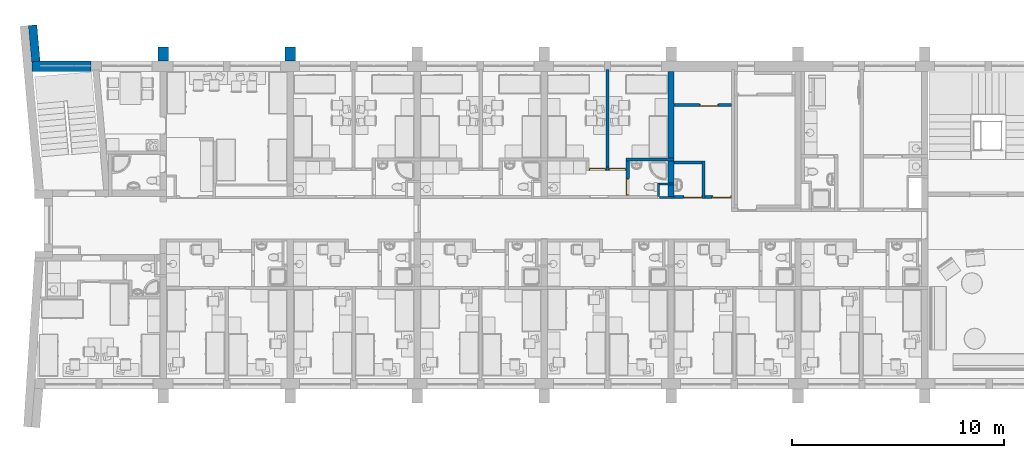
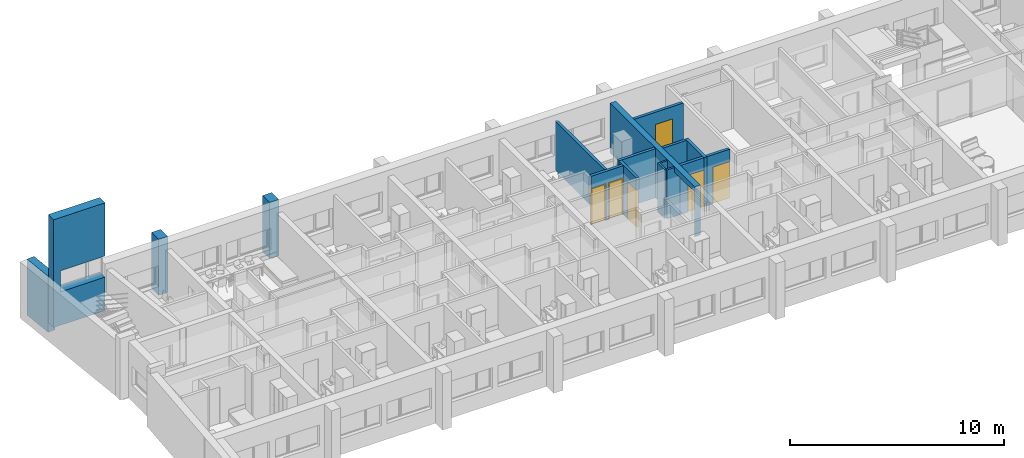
# One storey, part 8 of 165: 16 walls, 6 doors, 8 openings.
"""IFC2X3 building model written with IfcOpenShell, lengths in millimetres."""

from ifc_helpers import new_model, entity, si_unit, converted_unit, money_unit, direction, frame, origin_with_axes, place, context, subcontext, project, spatial, polyline, outline, extrude, faceted_brep, source, transform, mapped, material, material_list, layer, layer_set, layer_usage, type_object, element, fill, save


model = new_model("IFC2X3")

# Units and contexts
model_context = context("Model", 3, precision=1e-05, world=origin_with_axes(), true_north=direction((0.0, 1.0)))
body_context = subcontext(model_context, "Body", "Model", "MODEL_VIEW")
ifc_project = project(units=[si_unit("LENGTHUNIT", "METRE", prefix="MILLI"), si_unit("AREAUNIT", "SQUARE_METRE"), si_unit("VOLUMEUNIT", "CUBIC_METRE"), converted_unit("PLANEANGLEUNIT", "DEGREE", entity("IfcPlaneAngleMeasure", 0.0174532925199), si_unit("PLANEANGLEUNIT", "RADIAN"), dimensions=[0, 0, 0, 0, 0, 0, 0]), si_unit("SOLIDANGLEUNIT", "STERADIAN"), money_unit("USD"), converted_unit("TIMEUNIT", "Year", entity("IfcTimeMeasure", 31556926.0), si_unit("TIMEUNIT", "SECOND"), dimensions=[0, 0, 0, 0, 0, 0, 0]), si_unit("MASSUNIT", "GRAM"), si_unit("THERMODYNAMICTEMPERATUREUNIT", "DEGREE_CELSIUS"), si_unit("LUMINOUSINTENSITYUNIT", "LUMEN")], contexts=[model_context])

# Site, building, storey
site_placement = place(None, origin_with_axes())
site = spatial("IfcSite", under=ifc_project, at=site_placement, Name="Site", CompositionType="ELEMENT")
building_placement = place(site_placement, origin_with_axes())
building = spatial("IfcBuilding", under=site, at=building_placement, Name="Building", CompositionType="ELEMENT")
storey_placement = place(building_placement, frame((0.0, 0.0, 6300.0), z_axis=(0.0, 0.0, 1.0), x_axis=(1.0, 0.0, 0.0)))
storey = spatial("IfcBuildingStorey", under=building, at=storey_placement, Name="4KORRUS", CompositionType="ELEMENT", Elevation=6300.0)

# Walls
ifc_material_1 = material(Name="Olemasolevad seinad tellis, uus viimistlus")
ifc_layer_1 = layer(ifc_material_1, 400.0, ventilated="UNKNOWN")
ifc_layer_set_1 = layer_set([ifc_layer_1], Name="Olemasolevad seinad tellis, uus viimistlus 400")
ifc_layer_usage_1 = layer_usage(ifc_layer_set_1, "AXIS2", "POSITIVE", 0.0)
wall_type_1 = type_object("IfcWallType", Name="Olemasolevad seinad tellis, uus viimistlus 400", PredefinedType="NOTDEFINED")
wall_1_placement = place(storey_placement, frame((-53969.3388124, -4639.6041088, 0.0), z_axis=(0.0, 0.0, 1.0), x_axis=(-0.0895981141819, 0.995978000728, 0.0)))
element("IfcWallStandardCase", 1, at=wall_1_placement, inside=storey, type_object=wall_type_1, material=ifc_layer_usage_1, Name="VS1", ObjectType="VS1", context=body_context, shape_type="SweptSolid", body=[
    extrude(outline(polyline([(0.0, 0.0), (1721.86022219, 0.0), (1721.86022219, 400.0), (0.0, 400.0), (0.0, 0.0)])), origin_with_axes(), (0.0, 0.0, 1.0), 3200.0),
])
ifc_layer_2 = layer(ifc_material_1, 500.0, ventilated="UNKNOWN")
ifc_layer_set_2 = layer_set([ifc_layer_2], Name="Olemasolevad seinad tellis, uus viimistlus 500")
ifc_layer_usage_2 = layer_usage(ifc_layer_set_2, "AXIS2", "POSITIVE", -100.0)
wall_type_2 = type_object("IfcWallType", Name="Olemasolevad seinad tellis, uus viimistlus 500", PredefinedType="NOTDEFINED")
wall_2_placement = place(storey_placement, frame((-47990.2967033, -4639.6041088, 0.0), z_axis=(0.0, 0.0, 1.0), x_axis=(0.0, 1.0, 0.0)))
element("IfcWallStandardCase", 2, at=wall_2_placement, inside=storey, type_object=wall_type_2, material=ifc_layer_usage_2, Name="VS1", ObjectType="VS1", context=body_context, shape_type="SweptSolid", body=[
    extrude(outline(polyline([(0.0, -100.0), (657.402041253, -100.0), (657.402041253, 400.0), (0.0, 400.0), (0.0, -100.0)])), origin_with_axes(), (0.0, 0.0, 1.0), 3200.0),
])
ifc_layer_usage_3 = layer_usage(ifc_layer_set_2, "AXIS2", "POSITIVE", -100.0)
wall_3_placement = place(storey_placement, frame((-41990.2967033, -4639.6041088, 0.0), z_axis=(0.0, 0.0, 1.0), x_axis=(0.0, 1.0, 0.0)))
element("IfcWallStandardCase", 3, at=wall_3_placement, inside=storey, type_object=wall_type_2, material=ifc_layer_usage_3, Name="VS1", ObjectType="VS1", context=body_context, shape_type="SweptSolid", body=[
    extrude(outline(polyline([(0.0, -100.0), (657.402041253, -100.0), (657.402041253, 400.0), (0.0, 400.0), (0.0, -100.0)])), origin_with_axes(), (0.0, 0.0, 1.0), 3200.0),
])

# Wall, opening
ifc_layer_usage_4 = layer_usage(ifc_layer_set_2, "AXIS2", "POSITIVE", -100.0)
wall_4_placement = place(storey_placement, frame((-54343.0262419, -5039.6041088, 550.0), z_axis=(0.0, 0.0, 1.0), x_axis=(1.0, 0.0, 0.0)))
wall_4 = element("IfcWallStandardCase", 4, at=wall_4_placement, inside=storey, type_object=wall_type_2, material=ifc_layer_usage_4, Name="VS1", ObjectType="VS1", context=body_context, shape_type="SweptSolid", body=[
    extrude(outline(polyline([(0.0, -100.0), (2773.68742949, -100.0), (2773.68742949, 400.0), (0.0, 400.0), (0.0, -100.0)])), origin_with_axes(), (0.0, 0.0, 1.0), 6150.0),
])
opening_1_placement = place(wall_4_placement, frame((1573.68742949, 0.0, 1910.0), z_axis=(0.0, 0.0, 1.0), x_axis=(1.0, 0.0, 0.0)))
element("IfcOpeningElement", 5, at=opening_1_placement, cuts=wall_4, Name="A2", context=body_context, shape_type="SweptSolid", body=[
    extrude(outline(polyline([(-1200.0, 1200.0), (-1200.0, 0.0), (1200.0, 0.0), (1200.0, 1200.0), (-1200.0, 1200.0)])), frame((0.0, 200.0, 0.0), z_axis=(0.0, -1.0, 0.0), x_axis=(1.0, 0.0, 0.0)), (0.0, 0.0, 1.0), 800.0),
    extrude(outline(polyline([(-1200.0, 0.0), (-1200.0, -1200.0), (1200.0, -1200.0), (1200.0, 0.0), (-1200.0, 0.0)])), frame((0.0, 200.0, 0.0), z_axis=(0.0, 1.0, 0.0), x_axis=(1.0, 0.0, 0.0)), (0.0, 0.0, 1.0), 700.0),
])

# Wall, openings, doors
ifc_material_2 = material(Name="UmbKipsplaat")
ifc_layer_3 = layer(ifc_material_2, 13.0, ventilated="UNKNOWN")
ifc_layer_4 = layer(ifc_material_2, 13.0, ventilated="UNKNOWN")
ifc_material_3 = material(Name="SOOJUSTUS MINERAALVILL")
ifc_layer_5 = layer(ifc_material_3, 98.0, ventilated="UNKNOWN")
ifc_layer_6 = layer(ifc_material_2, 13.0, ventilated="UNKNOWN")
ifc_layer_7 = layer(ifc_material_2, 13.0, ventilated="UNKNOWN")
ifc_layer_set_3 = layer_set([ifc_layer_3, ifc_layer_4, ifc_layer_5, ifc_layer_6, ifc_layer_7], Name="kipssein150")
ifc_layer_usage_5 = layer_usage(ifc_layer_set_3, "AXIS2", "POSITIVE", 0.0)
wall_type_3 = type_object("IfcWallType", Name="kipssein150 150", PredefinedType="NOTDEFINED")
wall_5_placement = place(storey_placement, frame((-28015.7435229, -9806.89413859, 0.0), z_axis=(0.0, 0.0, 1.0), x_axis=(1.0, 0.0, 0.0)))
wall_5 = element("IfcWallStandardCase", 6, at=wall_5_placement, inside=storey, type_object=wall_type_3, material=ifc_layer_usage_5, Name="SS1", ObjectType="SS1", context=body_context, shape_type="SweptSolid", body=[
    extrude(outline(polyline([(0.0, 0.0), (1750.44681959, 0.0), (1750.44681959, 150.0), (0.0, 150.0), (0.0, 0.0)])), origin_with_axes(), (0.0, 0.0, 1.0), 2800.0),
])
opening_2_placement = place(wall_5_placement, frame((1341.45577623, 0.0, 0.0), z_axis=(0.0, 0.0, 1.0), x_axis=(1.0, 0.0, 0.0)))
opening_2 = element("IfcOpeningElement", 7, at=opening_2_placement, cuts=wall_5, Name="SU3-5", context=body_context, shape_type="SweptSolid", body=[
    extrude(outline(polyline([(-400.0, 0.0), (400.0, 0.0), (400.0, 2100.0), (-400.0, 2100.0), (-400.0, 0.0)])), frame((0.0, 150.0, 0.0), z_axis=(0.0, 1.0, 0.0), x_axis=(-1.0, 0.0, 0.0)), (0.0, 0.0, -1.0), 450.0),
])
opening_3_placement = place(wall_5_placement, frame((400.0, 0.0, 0.0), z_axis=(0.0, 0.0, 1.0), x_axis=(1.0, 0.0, 0.0)))
opening_3 = element("IfcOpeningElement", 8, at=opening_3_placement, cuts=wall_5, Name="SU3-4", context=body_context, shape_type="SweptSolid", body=[
    extrude(outline(polyline([(-400.0, 0.0), (400.0, 0.0), (400.0, 2100.0), (-400.0, 2100.0), (-400.0, 0.0)])), frame((0.0, 150.0, 0.0), z_axis=(0.0, -1.0, 0.0), x_axis=(1.0, 0.0, 0.0)), (0.0, 0.0, 1.0), 450.0),
])
ifc_material_4 = material(Name="Background")
ifc_material_list = material_list([ifc_material_4])
door_style_1 = type_object("IfcDoorStyle", Name="Door 19", ConstructionType="NOTDEFINED", OperationType="SINGLE_SWING_LEFT", ParameterTakesPrecedence=False, Sizeable=False)
shared_shape_1 = source(origin_with_axes(), body_context, "Body", "Brep", [
    faceted_brep([(360.0, -75.0, 0.0), (360.0, -150.0, 0.0), (360.0, -150.0, 2060.0), (360.0, -75.0, 2060.0), (372.0, -75.0, 0.0), (372.0, -35.0, 0.0), (400.0, -35.0, 0.0), (400.0, -150.0, 0.0), (400.0, -150.0, 2060.0), (372.0, -75.0, 2060.0), (400.0, -35.0, 2060.0), (372.0, -35.0, 2060.0)], [[[0, 1, 2, 3]], [[4, 5, 6, 7, 1, 0]], [[2, 1, 7, 8]], [[9, 3, 2, 8, 10, 11]], [[9, 4, 0, 3]], [[11, 5, 4, 9]], [[11, 10, 6, 5]], [[7, 6, 10, 8]]]),
    faceted_brep([(-372.0, -75.0, 2060.0), (-372.0, -35.0, 2060.0), (-400.0, -35.0, 2060.0), (-400.0, -150.0, 2060.0), (-360.0, -150.0, 2060.0), (-360.0, -75.0, 2060.0), (-372.0, -75.0, 0.0), (-372.0, -35.0, 0.0), (-400.0, -35.0, 0.0), (-400.0, -150.0, 0.0), (-360.0, -150.0, 0.0), (-360.0, -75.0, 0.0)], [[[0, 1, 2, 3, 4, 5]], [[0, 6, 7, 1]], [[7, 8, 2, 1]], [[3, 2, 8, 9]], [[4, 3, 9, 10]], [[5, 4, 10, 11]], [[5, 11, 6, 0]], [[6, 11, 10, 9, 8, 7]]]),
    faceted_brep([(372.0, -35.0, 2072.0), (-372.0, -35.0, 2072.0), (-372.0, -35.0, 2060.0), (-400.0, -35.0, 2060.0), (-400.0, -35.0, 2100.0), (400.0, -35.0, 2100.0), (400.0, -35.0, 2060.0), (372.0, -35.0, 2060.0), (372.0, -75.0, 2072.0), (-372.0, -75.0, 2072.0), (-372.0, -75.0, 2060.0), (-360.0, -75.0, 2060.0), (-360.0, -150.0, 2060.0), (-400.0, -150.0, 2060.0), (-400.0, -150.0, 2100.0), (400.0, -150.0, 2100.0), (400.0, -150.0, 2060.0), (372.0, -75.0, 2060.0), (360.0, -150.0, 2060.0), (360.0, -75.0, 2060.0)], [[[0, 1, 2, 3, 4, 5, 6, 7]], [[0, 8, 9, 1]], [[1, 9, 10, 2]], [[10, 11, 12, 13, 3, 2]], [[14, 4, 3, 13]], [[15, 5, 4, 14]], [[16, 6, 5, 15]], [[17, 7, 6, 16, 18, 19]], [[7, 17, 8, 0]], [[10, 9, 8, 17, 19, 11]], [[19, 18, 12, 11]], [[13, 12, 18, 16, 15, 14]]]),
    faceted_brep([(-372.0, -35.0, 0.0), (372.0, -35.0, 0.0), (372.0, -75.0, 0.0), (-372.0, -75.0, 0.0), (-372.0, -35.0, 2072.0), (372.0, -35.0, 2072.0), (372.0, -75.0, 2072.0), (-372.0, -75.0, 2072.0)], [[[0, 1, 2, 3]], [[0, 4, 5, 1]], [[1, 5, 6, 2]], [[3, 2, 6, 7]], [[4, 0, 3, 7]], [[5, 4, 7, 6]]]),
])
door_1_placement = place(opening_2_placement, frame((-400.0, 0.0, 0.0), z_axis=(0.0, 0.0, 1.0), x_axis=(1.0, 0.0, 0.0)))
door_1 = element("IfcDoor", 9, at=door_1_placement, inside=storey, type_object=door_style_1, material=ifc_material_list, Name="SU3-5", ObjectType="Toa uks", OverallHeight=2100.0, OverallWidth=800.0, context=body_context, shape_type="MappedRepresentation", body=[
    mapped(shared_shape_1, transform((400.0, 150.0, 0.0))),
])
fill(opening_2, door_1)
door_style_2 = type_object("IfcDoorStyle", Name="Door 19", ConstructionType="NOTDEFINED", OperationType="SINGLE_SWING_RIGHT", ParameterTakesPrecedence=False, Sizeable=False)
shared_shape_2 = source(origin_with_axes(), body_context, "Body", "Brep", [
    faceted_brep([(-360.0, -75.0, 0.0), (-360.0, -75.0, 2060.0), (-360.0, -150.0, 2060.0), (-360.0, -150.0, 0.0), (-372.0, -75.0, 2060.0), (-372.0, -75.0, 0.0), (-372.0, -35.0, 2060.0), (-400.0, -35.0, 2060.0), (-400.0, -150.0, 2060.0), (-400.0, -150.0, 0.0), (-400.0, -35.0, 0.0), (-372.0, -35.0, 0.0)], [[[0, 1, 2, 3]], [[4, 1, 0, 5]], [[4, 6, 7, 8, 2, 1]], [[2, 8, 9, 3]], [[5, 0, 3, 9, 10, 11]], [[6, 4, 5, 11]], [[6, 11, 10, 7]], [[9, 8, 7, 10]]]),
    faceted_brep([(372.0, -75.0, 2060.0), (360.0, -75.0, 2060.0), (360.0, -150.0, 2060.0), (400.0, -150.0, 2060.0), (400.0, -35.0, 2060.0), (372.0, -35.0, 2060.0), (372.0, -75.0, 0.0), (360.0, -75.0, 0.0), (360.0, -150.0, 0.0), (400.0, -150.0, 0.0), (400.0, -35.0, 0.0), (372.0, -35.0, 0.0)], [[[0, 1, 2, 3, 4, 5]], [[1, 0, 6, 7]], [[1, 7, 8, 2]], [[2, 8, 9, 3]], [[3, 9, 10, 4]], [[11, 5, 4, 10]], [[0, 5, 11, 6]], [[6, 11, 10, 9, 8, 7]]]),
    faceted_brep([(-372.0, -35.0, 2072.0), (-372.0, -35.0, 2060.0), (-400.0, -35.0, 2060.0), (-400.0, -35.0, 2100.0), (400.0, -35.0, 2100.0), (400.0, -35.0, 2060.0), (372.0, -35.0, 2060.0), (372.0, -35.0, 2072.0), (-372.0, -75.0, 2072.0), (-372.0, -75.0, 2060.0), (-360.0, -75.0, 2060.0), (-360.0, -150.0, 2060.0), (-400.0, -150.0, 2060.0), (-400.0, -150.0, 2100.0), (400.0, -150.0, 2100.0), (400.0, -150.0, 2060.0), (372.0, -75.0, 2060.0), (360.0, -150.0, 2060.0), (360.0, -75.0, 2060.0), (372.0, -75.0, 2072.0)], [[[0, 1, 2, 3, 4, 5, 6, 7]], [[1, 0, 8, 9]], [[9, 10, 11, 12, 2, 1]], [[12, 13, 3, 2]], [[13, 14, 4, 3]], [[14, 15, 5, 4]], [[16, 6, 5, 15, 17, 18]], [[7, 6, 16, 19]], [[0, 7, 19, 8]], [[16, 18, 10, 9, 8, 19]], [[10, 18, 17, 11]], [[15, 14, 13, 12, 11, 17]]]),
    faceted_brep([(372.0, -35.0, 0.0), (372.0, -75.0, 0.0), (-372.0, -75.0, 0.0), (-372.0, -35.0, 0.0), (372.0, -35.0, 2072.0), (372.0, -75.0, 2072.0), (-372.0, -75.0, 2072.0), (-372.0, -35.0, 2072.0)], [[[0, 1, 2, 3]], [[4, 5, 1, 0]], [[1, 5, 6, 2]], [[3, 2, 6, 7]], [[0, 3, 7, 4]], [[7, 6, 5, 4]]]),
])
door_2_placement = place(opening_3_placement, frame((-400.0, 0.0, 0.0), z_axis=(0.0, 0.0, 1.0), x_axis=(1.0, 0.0, 0.0)))
door_2 = element("IfcDoor", 10, at=door_2_placement, inside=storey, type_object=door_style_2, material=ifc_material_list, Name="SU3-4", ObjectType="Toa uks", OverallHeight=2100.0, OverallWidth=800.0, context=body_context, shape_type="MappedRepresentation", body=[
    mapped(shared_shape_2, transform((400.0, 150.0, 0.0))),
])
fill(opening_3, door_2)

# Walls
ifc_layer_usage_6 = layer_usage(ifc_layer_set_3, "AXIS2", "POSITIVE", -150.0)
wall_6_placement = place(storey_placement, frame((-23990.2967033, -9359.6041088, 0.0), z_axis=(0.0, 0.0, 1.0), x_axis=(1.0, 0.0, 0.0)))
element("IfcWallStandardCase", 11, at=wall_6_placement, inside=storey, type_object=wall_type_3, material=ifc_layer_usage_6, Name="SS1", ObjectType="SS1", context=body_context, shape_type="SweptSolid", body=[
    extrude(outline(polyline([(0.0, -150.0), (1309.37146383, -150.0), (1309.37146383, 0.0), (0.0, 0.0), (0.0, -150.0)])), origin_with_axes(), (0.0, 0.0, 1.0), 2800.0),
])
ifc_layer_usage_7 = layer_usage(ifc_layer_set_3, "AXIS2", "POSITIVE", -150.0)
wall_7_placement = place(storey_placement, frame((-22680.9252395, -11136.6041088, 0.0), z_axis=(0.0, 0.0, 1.0), x_axis=(0.0, 1.0, 0.0)))
element("IfcWallStandardCase", 12, at=wall_7_placement, inside=storey, type_object=wall_type_3, material=ifc_layer_usage_7, Name="SS1", ObjectType="SS1", context=body_context, shape_type="SweptSolid", body=[
    extrude(outline(polyline([(0.0, -150.0), (1777.0, -150.0), (1777.0, 0.0), (0.0, 0.0), (0.0, -150.0)])), origin_with_axes(), (0.0, 0.0, 1.0), 2800.0),
])

# Wall, openings, doors
ifc_layer_usage_8 = layer_usage(ifc_layer_set_3, "AXIS2", "POSITIVE", 0.0)
wall_8_placement = place(storey_placement, frame((-23990.2967033, -11136.6041088, 0.0), z_axis=(0.0, 0.0, 1.0), x_axis=(1.0, 0.0, 0.0)))
wall_8 = element("IfcWallStandardCase", 13, at=wall_8_placement, inside=storey, type_object=wall_type_3, material=ifc_layer_usage_8, Name="SS1", ObjectType="SS1", context=body_context, shape_type="SweptSolid", body=[
    extrude(outline(polyline([(0.0, 0.0), (2696.4969239, 0.0), (2696.4969239, 150.0), (0.0, 150.0), (0.0, 0.0)])), origin_with_axes(), (0.0, 0.0, 1.0), 2800.0),
])
opening_4_placement = place(wall_8_placement, frame((2246.4969239, 0.0, 0.0), z_axis=(0.0, 0.0, 1.0), x_axis=(1.0, 0.0, 0.0)))
opening_4 = element("IfcOpeningElement", 14, at=opening_4_placement, cuts=wall_8, Name="SU2-3", context=body_context, shape_type="SweptSolid", body=[
    extrude(outline(polyline([(-450.0, 0.0), (450.0, 0.0), (450.0, 2100.0), (-450.0, 2100.0), (-450.0, 0.0)])), frame((0.0, -150.0, 0.0), z_axis=(0.0, -1.0, 0.0), x_axis=(1.0, 0.0, 0.0)), (0.0, 0.0, -1.0), 450.0),
])
opening_5_placement = place(wall_8_placement, frame((878.104507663, 0.0, 0.0), z_axis=(0.0, 0.0, 1.0), x_axis=(1.0, 0.0, 0.0)))
opening_5 = element("IfcOpeningElement", 15, at=opening_5_placement, cuts=wall_8, Name="SU2-4", context=body_context, shape_type="SweptSolid", body=[
    extrude(outline(polyline([(-450.0, 0.0), (450.0, 0.0), (450.0, 2100.0), (-450.0, 2100.0), (-450.0, 0.0)])), frame((0.0, -150.0, 0.0), z_axis=(0.0, -1.0, 0.0), x_axis=(1.0, 0.0, 0.0)), (0.0, 0.0, -1.0), 450.0),
])
door_style_3 = type_object("IfcDoorStyle", Name="Door 19", ConstructionType="NOTDEFINED", OperationType="SINGLE_SWING_LEFT", ParameterTakesPrecedence=False, Sizeable=False)
shared_shape_3 = source(origin_with_axes(), body_context, "Body", "Brep", [
    faceted_brep([(410.0, -75.0, 0.0), (410.0, -150.0, 0.0), (410.0, -150.0, 2060.0), (410.0, -75.0, 2060.0), (422.0, -75.0, 0.0), (422.0, -35.0, 0.0), (450.0, -35.0, 0.0), (450.0, -150.0, 0.0), (450.0, -150.0, 2060.0), (422.0, -75.0, 2060.0), (450.0, -35.0, 2060.0), (422.0, -35.0, 2060.0)], [[[0, 1, 2, 3]], [[4, 5, 6, 7, 1, 0]], [[2, 1, 7, 8]], [[9, 3, 2, 8, 10, 11]], [[9, 4, 0, 3]], [[11, 5, 4, 9]], [[11, 10, 6, 5]], [[7, 6, 10, 8]]]),
    faceted_brep([(-422.0, -75.0, 2060.0), (-422.0, -35.0, 2060.0), (-450.0, -35.0, 2060.0), (-450.0, -150.0, 2060.0), (-410.0, -150.0, 2060.0), (-410.0, -75.0, 2060.0), (-422.0, -75.0, 0.0), (-422.0, -35.0, 0.0), (-450.0, -35.0, 0.0), (-450.0, -150.0, 0.0), (-410.0, -150.0, 0.0), (-410.0, -75.0, 0.0)], [[[0, 1, 2, 3, 4, 5]], [[0, 6, 7, 1]], [[7, 8, 2, 1]], [[3, 2, 8, 9]], [[4, 3, 9, 10]], [[5, 4, 10, 11]], [[5, 11, 6, 0]], [[6, 11, 10, 9, 8, 7]]]),
    faceted_brep([(422.0, -35.0, 2072.0), (-422.0, -35.0, 2072.0), (-422.0, -35.0, 2060.0), (-450.0, -35.0, 2060.0), (-450.0, -35.0, 2100.0), (450.0, -35.0, 2100.0), (450.0, -35.0, 2060.0), (422.0, -35.0, 2060.0), (422.0, -75.0, 2072.0), (-422.0, -75.0, 2072.0), (-422.0, -75.0, 2060.0), (-410.0, -75.0, 2060.0), (-410.0, -150.0, 2060.0), (-450.0, -150.0, 2060.0), (-450.0, -150.0, 2100.0), (450.0, -150.0, 2100.0), (450.0, -150.0, 2060.0), (422.0, -75.0, 2060.0), (410.0, -150.0, 2060.0), (410.0, -75.0, 2060.0)], [[[0, 1, 2, 3, 4, 5, 6, 7]], [[0, 8, 9, 1]], [[1, 9, 10, 2]], [[10, 11, 12, 13, 3, 2]], [[14, 4, 3, 13]], [[15, 5, 4, 14]], [[16, 6, 5, 15]], [[17, 7, 6, 16, 18, 19]], [[7, 17, 8, 0]], [[10, 9, 8, 17, 19, 11]], [[19, 18, 12, 11]], [[13, 12, 18, 16, 15, 14]]]),
    faceted_brep([(-422.0, -35.0, 0.0), (422.0, -35.0, 0.0), (422.0, -75.0, 0.0), (-422.0, -75.0, 0.0), (-422.0, -35.0, 2072.0), (422.0, -35.0, 2072.0), (422.0, -75.0, 2072.0), (-422.0, -75.0, 2072.0)], [[[0, 1, 2, 3]], [[0, 4, 5, 1]], [[1, 5, 6, 2]], [[3, 2, 6, 7]], [[4, 0, 3, 7]], [[5, 4, 7, 6]]]),
])
door_3_placement = place(opening_4_placement, frame((450.0, 0.0, 0.0), z_axis=(0.0, 0.0, 1.0), x_axis=(-1.0, 0.0, 0.0)))
door_3 = element("IfcDoor", 16, at=door_3_placement, inside=storey, type_object=door_style_3, material=ifc_material_list, Name="SU2-3", ObjectType="Abiruumi uks", OverallHeight=2100.0, OverallWidth=900.0, context=body_context, shape_type="MappedRepresentation", body=[
    mapped(shared_shape_3, transform((450.0, 0.0, 0.0))),
])
fill(opening_4, door_3)
door_4_placement = place(opening_5_placement, frame((450.0, 0.0, 0.0), z_axis=(0.0, 0.0, 1.0), x_axis=(-1.0, 0.0, 0.0)))
door_4 = element("IfcDoor", 17, at=door_4_placement, inside=storey, type_object=door_style_3, material=ifc_material_list, Name="SU2-4", ObjectType="Abiruumi uks", OverallHeight=2100.0, OverallWidth=900.0, context=body_context, shape_type="MappedRepresentation", body=[
    mapped(shared_shape_3, transform((450.0, 0.0, 0.0))),
])
fill(opening_5, door_4)

# Walls
ifc_layer_usage_9 = layer_usage(ifc_layer_set_3, "AXIS2", "POSITIVE", 0.0)
wall_9_placement = place(storey_placement, frame((-27215.7435229, -5039.6041088, 0.0), z_axis=(0.0, 0.0, 1.0), x_axis=(0.0, -1.0, 0.0)))
element("IfcWallStandardCase", 18, at=wall_9_placement, inside=storey, type_object=wall_type_3, material=ifc_layer_usage_9, Name="SS1", ObjectType="SS1", context=body_context, shape_type="SweptSolid", body=[
    extrude(outline(polyline([(0.0, 0.0), (4767.29002979, 0.0), (4767.29002979, 150.0), (0.0, 150.0), (0.0, 0.0)])), origin_with_axes(), (0.0, 0.0, 1.0), 2800.0),
])
ifc_layer_usage_10 = layer_usage(ifc_layer_set_3, "AXIS2", "POSITIVE", 0.0)
wall_10_placement = place(storey_placement, frame((-26265.2967033, -9367.37850445, 0.0), z_axis=(0.0, 0.0, 1.0), x_axis=(1.0, 0.0, 0.0)))
element("IfcWallStandardCase", 19, at=wall_10_placement, inside=storey, type_object=wall_type_3, material=ifc_layer_usage_10, Name="SS1", ObjectType="SS1", context=body_context, shape_type="SweptSolid", body=[
    extrude(outline(polyline([(0.0, 0.0), (2275.0, 0.0), (2275.0, 150.0), (0.0, 150.0), (0.0, 0.0)])), origin_with_axes(), (0.0, 0.0, 1.0), 2800.0),
])

# Wall, opening, door
ifc_layer_usage_11 = layer_usage(ifc_layer_set_3, "AXIS2", "POSITIVE", 0.0)
wall_11_placement = place(storey_placement, frame((-26265.2967033, -9367.37850445, 0.0), z_axis=(0.0, 0.0, 1.0), x_axis=(0.0, -1.0, 0.0)))
wall_11 = element("IfcWallStandardCase", 20, at=wall_11_placement, inside=storey, type_object=wall_type_3, material=ifc_layer_usage_11, Name="SS1", ObjectType="SS1", context=body_context, shape_type="SweptSolid", body=[
    extrude(outline(polyline([(0.0, 0.0), (1619.22560435, 0.0), (1619.22560435, 150.0), (0.0, 150.0), (0.0, 0.0)])), origin_with_axes(), (0.0, 0.0, 1.0), 2800.0),
])
opening_6_placement = place(wall_11_placement, frame((1219.22560435, 0.0, 0.0), z_axis=(0.0, 0.0, 1.0), x_axis=(1.0, 0.0, 0.0)))
opening_6 = element("IfcOpeningElement", 21, at=opening_6_placement, cuts=wall_11, Name="SU3-3", context=body_context, shape_type="SweptSolid", body=[
    extrude(outline(polyline([(-400.0, -2100.0), (400.0, -2100.0), (400.0, 0.0), (-400.0, 0.0), (-400.0, -2100.0)])), frame((0.0, 150.0, 0.0), z_axis=(0.0, 1.0, 0.0), x_axis=(1.0, 0.0, 0.0)), (0.0, 0.0, -1.0), 450.0),
])
door_style_4 = type_object("IfcDoorStyle", Name="Door 19", ConstructionType="NOTDEFINED", OperationType="SINGLE_SWING_LEFT", ParameterTakesPrecedence=False, Sizeable=False)
shared_shape_4 = source(origin_with_axes(), body_context, "Body", "Brep", [
    faceted_brep([(360.0, -40.0, 0.0), (360.0, -115.0, 0.0), (360.0, -115.0, 2060.0), (360.0, -40.0, 2060.0), (372.0, -40.0, 0.0), (372.0, 0.0, 0.0), (400.0, 0.0, 0.0), (400.0, -115.0, 0.0), (400.0, -115.0, 2060.0), (372.0, -40.0, 2060.0), (400.0, 0.0, 2060.0), (372.0, 0.0, 2060.0)], [[[0, 1, 2, 3]], [[4, 5, 6, 7, 1, 0]], [[2, 1, 7, 8]], [[9, 3, 2, 8, 10, 11]], [[9, 4, 0, 3]], [[11, 5, 4, 9]], [[11, 10, 6, 5]], [[7, 6, 10, 8]]]),
    faceted_brep([(-372.0, -40.0, 2060.0), (-372.0, 0.0, 2060.0), (-400.0, 0.0, 2060.0), (-400.0, -115.0, 2060.0), (-360.0, -115.0, 2060.0), (-360.0, -40.0, 2060.0), (-372.0, -40.0, 0.0), (-372.0, 0.0, 0.0), (-400.0, 0.0, 0.0), (-400.0, -115.0, 0.0), (-360.0, -115.0, 0.0), (-360.0, -40.0, 0.0)], [[[0, 1, 2, 3, 4, 5]], [[0, 6, 7, 1]], [[7, 8, 2, 1]], [[3, 2, 8, 9]], [[4, 3, 9, 10]], [[5, 4, 10, 11]], [[5, 11, 6, 0]], [[6, 11, 10, 9, 8, 7]]]),
    faceted_brep([(372.0, 0.0, 2072.0), (-372.0, 0.0, 2072.0), (-372.0, 0.0, 2060.0), (-400.0, 0.0, 2060.0), (-400.0, 0.0, 2100.0), (400.0, 0.0, 2100.0), (400.0, 0.0, 2060.0), (372.0, 0.0, 2060.0), (372.0, -40.0, 2072.0), (-372.0, -40.0, 2072.0), (-372.0, -40.0, 2060.0), (-360.0, -40.0, 2060.0), (-360.0, -115.0, 2060.0), (-400.0, -115.0, 2060.0), (-400.0, -115.0, 2100.0), (400.0, -115.0, 2100.0), (400.0, -115.0, 2060.0), (372.0, -40.0, 2060.0), (360.0, -115.0, 2060.0), (360.0, -40.0, 2060.0)], [[[0, 1, 2, 3, 4, 5, 6, 7]], [[0, 8, 9, 1]], [[1, 9, 10, 2]], [[10, 11, 12, 13, 3, 2]], [[14, 4, 3, 13]], [[15, 5, 4, 14]], [[16, 6, 5, 15]], [[17, 7, 6, 16, 18, 19]], [[7, 17, 8, 0]], [[10, 9, 8, 17, 19, 11]], [[19, 18, 12, 11]], [[13, 12, 18, 16, 15, 14]]]),
    faceted_brep([(-372.0, 0.0, 0.0), (372.0, 0.0, 0.0), (372.0, -40.0, 0.0), (-372.0, -40.0, 0.0), (-372.0, 0.0, 2072.0), (372.0, 0.0, 2072.0), (372.0, -40.0, 2072.0), (-372.0, -40.0, 2072.0)], [[[0, 1, 2, 3]], [[0, 4, 5, 1]], [[1, 5, 6, 2]], [[3, 2, 6, 7]], [[4, 0, 3, 7]], [[5, 4, 7, 6]]]),
])
door_5_placement = place(opening_6_placement, frame((400.0, 0.0, 0.0), z_axis=(0.0, 0.0, 1.0), x_axis=(-1.0, 0.0, 0.0)))
door_5 = element("IfcDoor", 22, at=door_5_placement, inside=storey, type_object=door_style_4, material=ifc_material_list, Name="SU3-3", ObjectType="WC-uks", OverallHeight=2100.0, OverallWidth=800.0, context=body_context, shape_type="MappedRepresentation", body=[
    mapped(shared_shape_4, transform((400.0, 0.0, 0.0))),
])
fill(opening_6, door_5)

ifc_layer_usage_12 = layer_usage(ifc_layer_set_3, "AXIS2", "POSITIVE", 0.0)
wall_12_placement = place(storey_placement, frame((-23990.2967033, -6789.6041088, 0.0), z_axis=(0.0, 0.0, 1.0), x_axis=(1.0, 0.0, 0.0)))
wall_12 = element("IfcWallStandardCase", 23, at=wall_12_placement, inside=storey, type_object=wall_type_3, material=ifc_layer_usage_12, Name="SS1", ObjectType="SS1", context=body_context, shape_type="SweptSolid", body=[
    extrude(outline(polyline([(0.0, 0.0), (2696.4969239, 0.0), (2696.4969239, 150.0), (0.0, 150.0), (0.0, 0.0)])), origin_with_axes(), (0.0, 0.0, 1.0), 2800.0),
])
opening_7_placement = place(wall_12_placement, frame((1646.4969239, 0.0, 0.0), z_axis=(0.0, 0.0, 1.0), x_axis=(1.0, 0.0, 0.0)))
opening_7 = element("IfcOpeningElement", 24, at=opening_7_placement, cuts=wall_12, Name="SU2-4", context=body_context, shape_type="SweptSolid", body=[
    extrude(outline(polyline([(-450.0, -2100.0), (450.0, -2100.0), (450.0, 0.0), (-450.0, 0.0), (-450.0, -2100.0)])), frame((0.0, 150.0, 0.0), z_axis=(0.0, 1.0, 0.0), x_axis=(1.0, 0.0, 0.0)), (0.0, 0.0, -1.0), 450.0),
])
shared_shape_5 = source(origin_with_axes(), body_context, "Body", "Brep", [
    faceted_brep([(410.0, -40.0, 0.0), (410.0, -115.0, 0.0), (410.0, -115.0, 2060.0), (410.0, -40.0, 2060.0), (422.0, -40.0, 0.0), (422.0, 0.0, 0.0), (450.0, 0.0, 0.0), (450.0, -115.0, 0.0), (450.0, -115.0, 2060.0), (422.0, -40.0, 2060.0), (450.0, 0.0, 2060.0), (422.0, 0.0, 2060.0)], [[[0, 1, 2, 3]], [[4, 5, 6, 7, 1, 0]], [[2, 1, 7, 8]], [[9, 3, 2, 8, 10, 11]], [[9, 4, 0, 3]], [[11, 5, 4, 9]], [[11, 10, 6, 5]], [[7, 6, 10, 8]]]),
    faceted_brep([(-422.0, -40.0, 2060.0), (-422.0, 0.0, 2060.0), (-450.0, 0.0, 2060.0), (-450.0, -115.0, 2060.0), (-410.0, -115.0, 2060.0), (-410.0, -40.0, 2060.0), (-422.0, -40.0, 0.0), (-422.0, 0.0, 0.0), (-450.0, 0.0, 0.0), (-450.0, -115.0, 0.0), (-410.0, -115.0, 0.0), (-410.0, -40.0, 0.0)], [[[0, 1, 2, 3, 4, 5]], [[0, 6, 7, 1]], [[7, 8, 2, 1]], [[3, 2, 8, 9]], [[4, 3, 9, 10]], [[5, 4, 10, 11]], [[5, 11, 6, 0]], [[6, 11, 10, 9, 8, 7]]]),
    faceted_brep([(422.0, 0.0, 2072.0), (-422.0, 0.0, 2072.0), (-422.0, 0.0, 2060.0), (-450.0, 0.0, 2060.0), (-450.0, 0.0, 2100.0), (450.0, 0.0, 2100.0), (450.0, 0.0, 2060.0), (422.0, 0.0, 2060.0), (422.0, -40.0, 2072.0), (-422.0, -40.0, 2072.0), (-422.0, -40.0, 2060.0), (-410.0, -40.0, 2060.0), (-410.0, -115.0, 2060.0), (-450.0, -115.0, 2060.0), (-450.0, -115.0, 2100.0), (450.0, -115.0, 2100.0), (450.0, -115.0, 2060.0), (422.0, -40.0, 2060.0), (410.0, -115.0, 2060.0), (410.0, -40.0, 2060.0)], [[[0, 1, 2, 3, 4, 5, 6, 7]], [[0, 8, 9, 1]], [[1, 9, 10, 2]], [[10, 11, 12, 13, 3, 2]], [[14, 4, 3, 13]], [[15, 5, 4, 14]], [[16, 6, 5, 15]], [[17, 7, 6, 16, 18, 19]], [[7, 17, 8, 0]], [[10, 9, 8, 17, 19, 11]], [[19, 18, 12, 11]], [[13, 12, 18, 16, 15, 14]]]),
    faceted_brep([(-422.0, 0.0, 0.0), (422.0, 0.0, 0.0), (422.0, -40.0, 0.0), (-422.0, -40.0, 0.0), (-422.0, 0.0, 2072.0), (422.0, 0.0, 2072.0), (422.0, -40.0, 2072.0), (-422.0, -40.0, 2072.0)], [[[0, 1, 2, 3]], [[0, 4, 5, 1]], [[1, 5, 6, 2]], [[3, 2, 6, 7]], [[4, 0, 3, 7]], [[5, 4, 7, 6]]]),
])
door_6_placement = place(opening_7_placement, frame((450.0, 0.0, 0.0), z_axis=(0.0, 0.0, 1.0), x_axis=(-1.0, 0.0, 0.0)))
door_6 = element("IfcDoor", 25, at=door_6_placement, inside=storey, type_object=door_style_4, material=ifc_material_list, Name="SU2-4", ObjectType="Abiruumi uks", OverallHeight=2100.0, OverallWidth=900.0, context=body_context, shape_type="MappedRepresentation", body=[
    mapped(shared_shape_5, transform((450.0, 0.0, 0.0))),
])
fill(opening_7, door_6)

# Wall, opening
ifc_material_5 = material(Name="Olemasolevad seinad tellis, uus viimistlus")
ifc_layer_8 = layer(ifc_material_5, 300.0, ventilated="UNKNOWN")
ifc_layer_set_4 = layer_set([ifc_layer_8], Name="Olemasolevad seinad tellis, uus viimistlus  300")
ifc_layer_usage_13 = layer_usage(ifc_layer_set_4, "AXIS2", "POSITIVE", 0.0)
wall_type_4 = type_object("IfcWallType", Name="Olemasolevad seinad tellis, uus viimistlus  300", PredefinedType="NOTDEFINED")
wall_13_placement = place(storey_placement, frame((-23990.2967033, -13039.3705726, 0.0), z_axis=(0.0, 0.0, 1.0), x_axis=(0.0, 1.0, 0.0)))
wall_13 = element("IfcWallStandardCase", 26, at=wall_13_placement, inside=storey, type_object=wall_type_4, material=ifc_layer_usage_13, Name="KS1", ObjectType="KS1", context=body_context, shape_type="SweptSolid", body=[
    extrude(outline(polyline([(0.0, 0.0), (7899.7664638, 0.0), (7899.7664638, 300.0), (0.0, 300.0), (0.0, 0.0)])), origin_with_axes(), (0.0, 0.0, 1.0), 2850.0),
])
opening_8_placement = place(wall_13_placement, frame((951.448568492, 0.0, 0.0), z_axis=(0.0, 0.0, 1.0), x_axis=(1.0, 0.0, 0.0)))
element("IfcOpeningElement", 27, at=opening_8_placement, cuts=wall_13, Name="DOO - 001", context=body_context, shape_type="SweptSolid", body=[
    extrude(outline(polyline([(-951.318, 2550.0), (-951.318, 0.0), (951.318, 0.0), (951.318, 2550.0), (-951.318, 2550.0)])), frame((0.0, 0.0, 0.0), z_axis=(0.0, -1.0, 0.0), x_axis=(1.0, 0.0, 0.0)), (0.0, 0.0, 1.0), 300.0),
    extrude(outline(polyline([(-951.318, 0.0), (-951.318, -2550.0), (951.318, -2550.0), (951.318, 0.0), (-951.318, 0.0)])), frame((0.0, 0.0, 0.0), z_axis=(0.0, 1.0, 0.0), x_axis=(1.0, 0.0, 0.0)), (0.0, 0.0, 1.0), 300.0),
])

# Walls
ifc_material_6 = material(Name="krohv")
ifc_layer_9 = layer(ifc_material_6, 2.0, ventilated="UNKNOWN")
ifc_layer_10 = layer(ifc_material_6, 10.0, ventilated="UNKNOWN")
ifc_material_7 = material(Name="Kergplokk")
ifc_layer_11 = layer(ifc_material_7, 76.0, ventilated="UNKNOWN")
ifc_layer_12 = layer(ifc_material_6, 10.0, ventilated="UNKNOWN")
ifc_layer_13 = layer(ifc_material_6, 2.0, ventilated="UNKNOWN")
ifc_layer_set_5 = layer_set([ifc_layer_9, ifc_layer_10, ifc_layer_11, ifc_layer_12, ifc_layer_13], Name="Kergplokk Bauroc 100")
ifc_layer_usage_14 = layer_usage(ifc_layer_set_5, "AXIS2", "POSITIVE", -100.0)
wall_type_5 = type_object("IfcWallType", Name="Kergplokk Bauroc 100 100", PredefinedType="NOTDEFINED")
wall_14_placement = place(storey_placement, frame((-24677.7199126, -10398.1388458, 0.0), z_axis=(0.0, 0.0, 1.0), x_axis=(1.0, 0.0, 0.0)))
element("IfcWallStandardCase", 28, at=wall_14_placement, inside=storey, type_object=wall_type_5, material=ifc_layer_usage_14, Name="SS2", ObjectType="SS2", context=body_context, shape_type="SweptSolid", body=[
    extrude(outline(polyline([(0.0, -100.0), (687.423209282, -100.0), (687.423209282, 0.0), (0.0, 0.0), (0.0, -100.0)])), origin_with_axes(), (0.0, 0.0, 1.0), 2800.0),
])
ifc_layer_usage_15 = layer_usage(ifc_layer_set_5, "AXIS2", "POSITIVE", -100.0)
wall_15_placement = place(storey_placement, frame((-24677.7199126, -11036.6041088, 0.0), z_axis=(0.0, 0.0, 1.0), x_axis=(1.0, 0.0, 0.0)))
element("IfcWallStandardCase", 29, at=wall_15_placement, inside=storey, type_object=wall_type_5, material=ifc_layer_usage_15, Name="SS2", ObjectType="SS2", context=body_context, shape_type="SweptSolid", body=[
    extrude(outline(polyline([(0.0, -100.0), (687.423209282, -100.0), (687.423209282, 0.0), (0.0, 0.0), (0.0, -100.0)])), origin_with_axes(), (0.0, 0.0, 1.0), 2800.0),
])
ifc_layer_usage_16 = layer_usage(ifc_layer_set_5, "AXIS2", "POSITIVE", 0.0)
wall_16_placement = place(storey_placement, frame((-24677.7199126, -11036.6041088, 0.0), z_axis=(0.0, 0.0, 1.0), x_axis=(0.0, 1.0, 0.0)))
element("IfcWallStandardCase", 30, at=wall_16_placement, inside=storey, type_object=wall_type_5, material=ifc_layer_usage_16, Name="SS2", ObjectType="SS2", context=body_context, shape_type="SweptSolid", body=[
    extrude(outline(polyline([(0.0, 0.0), (638.465262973, 0.0), (638.465262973, 100.0), (0.0, 100.0), (0.0, 0.0)])), origin_with_axes(), (0.0, 0.0, 1.0), 2800.0),
])

save(model, "model.ifc")
